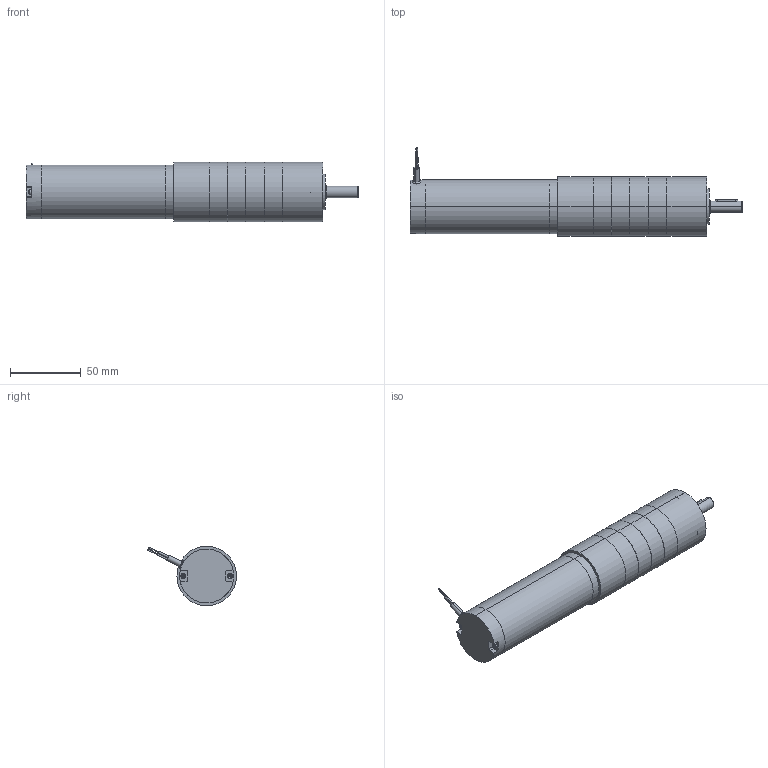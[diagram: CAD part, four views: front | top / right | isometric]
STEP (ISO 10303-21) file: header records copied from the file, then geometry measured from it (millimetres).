
FILE_DESCRIPTION (( 'STEP AP203' ), '1' );
FILE_NAME ('s17400gp4.step', '2019-04-01T18:57:20', ( '' ), ( '' ), 'SwSTEP 2.0', 'SolidWorks 2017', '' );
FILE_SCHEMA (( 'CONFIG_CONTROL_DESIGN' ));
Length unit declared in the file: inch
Products named in the file (1): s17400gp4
Bounding box: 234.37 x 62.72 x 42 mm (x, y, z)
Volume: 260561.6 mm3; surface area: 52085.1 mm2
Topology: 18 solids, 18 shells, 357 faces, 753 edges, 478 vertices
Faces by surface type: plane 154, cylinder 144, cone 41, torus 10, sphere 8
Entity records: 9805 total; most frequent: DIRECTION 1800, CARTESIAN_POINT 1765, ORIENTED_EDGE 1506, EDGE_CURVE 753, AXIS2_PLACEMENT_3D 723, VERTEX_POINT 478, EDGE_LOOP 421, CIRCLE 365
